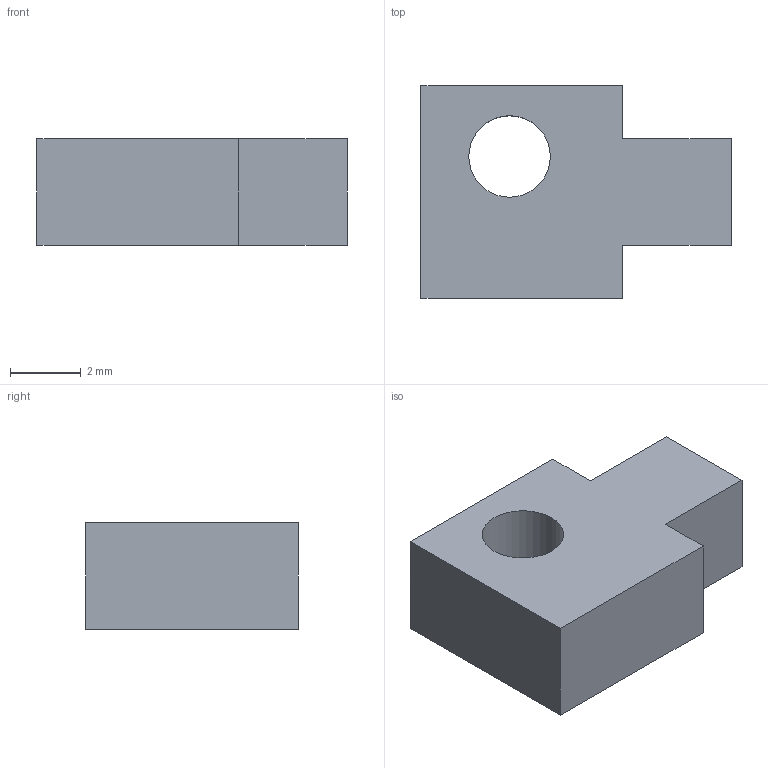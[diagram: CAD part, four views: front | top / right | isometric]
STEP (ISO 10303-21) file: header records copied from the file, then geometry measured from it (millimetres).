
FILE_DESCRIPTION(('FreeCAD Model'),'2;1');
FILE_NAME('Open CASCADE Shape Model','2026-11-02T01:51:25',('FreeCAD'),( 'FreeCAD'),'Open CASCADE STEP processor 7.8','FreeCAD','Unknown');
FILE_SCHEMA(('AUTOMOTIVE_DESIGN { 1 0 10303 214 1 1 1 1 }'));
Length unit declared in the file: millimetre
Products named in the file (1): Open CASCADE STEP translator 7.8 3
Bounding box: 8.75 x 6 x 3 mm (x, y, z)
Volume: 117.6 mm3; surface area: 188.6 mm2
Topology: 1 solids, 1 shells, 11 faces, 27 edges, 18 vertices
Faces by surface type: plane 10, cylinder 1
Full cylindrical faces by diameter (mm): 2.3 x1
Entity records: 337 total; most frequent: CARTESIAN_POINT 57, ORIENTED_EDGE 54, DIRECTION 53, EDGE_CURVE 27, LINE 25, VECTOR 25, VERTEX_POINT 18, AXIS2_PLACEMENT_3D 14
